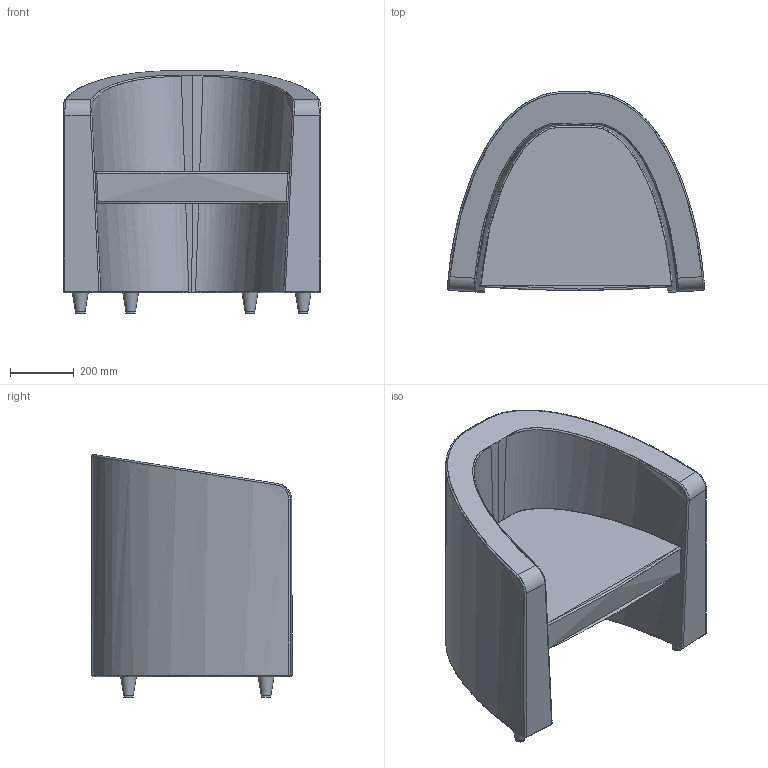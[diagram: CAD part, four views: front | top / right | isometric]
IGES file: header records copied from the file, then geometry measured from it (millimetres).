
Global section: file name: O:\FIRMA\osobn; native system: Rhinoceros ( Feb 26 2009 ); preprocessor: Trout Lake IGES 012 Feb 26 2009; date: 110122.112620; units: millimetre
Bounding box: 807.2 x 629.11 x 762.56 mm (x, y, z)
Surface area: 3075873.2 mm2 (no closed solid volume)
Topology: 0 solids, 0 shells, 78 faces, 948 edges, 940 vertices
Faces by surface type: bspline 78
